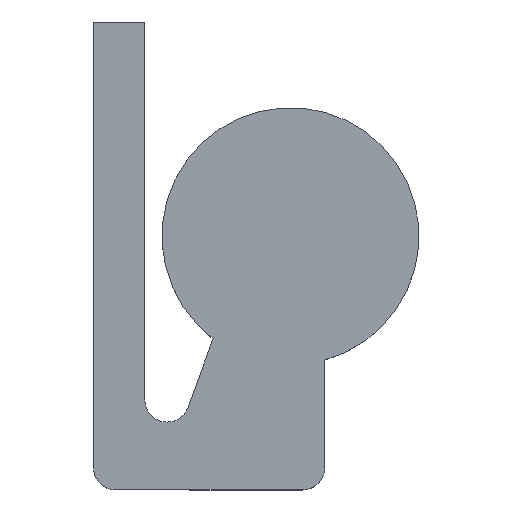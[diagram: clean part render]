
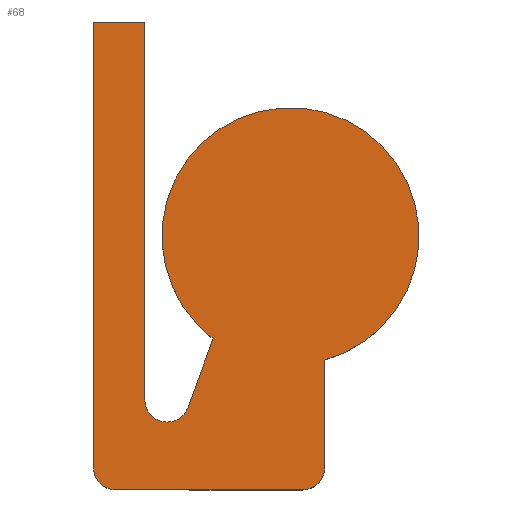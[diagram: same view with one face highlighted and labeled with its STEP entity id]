
A CAD part, top view. The second image highlights one B-rep face of the part: STEP entity #68.
In plain terms, the highlighted planar face has unit normal (0, 0, 1).
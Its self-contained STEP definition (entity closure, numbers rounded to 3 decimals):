
#68 = ADVANCED_FACE( '', ( #171 ), #172, .T. );
#171 = FACE_OUTER_BOUND( '', #323, .T. );
#172 = PLANE( '', #324 );
#323 = EDGE_LOOP( '', ( #471, #472, #473, #474, #475, #476, #477, #478, #479, #480, #481 ) );
#324 = AXIS2_PLACEMENT_3D( '', #482, #483, #484 );
#471 = ORIENTED_EDGE( '', *, *, #798, .F. );
#472 = ORIENTED_EDGE( '', *, *, #799, .T. );
#473 = ORIENTED_EDGE( '', *, *, #800, .F. );
#474 = ORIENTED_EDGE( '', *, *, #801, .F. );
#475 = ORIENTED_EDGE( '', *, *, #802, .F. );
#476 = ORIENTED_EDGE( '', *, *, #803, .F. );
#477 = ORIENTED_EDGE( '', *, *, #804, .F. );
#478 = ORIENTED_EDGE( '', *, *, #805, .F. );
#479 = ORIENTED_EDGE( '', *, *, #806, .F. );
#480 = ORIENTED_EDGE( '', *, *, #807, .F. );
#481 = ORIENTED_EDGE( '', *, *, #808, .F. );
#482 = CARTESIAN_POINT( '', ( -150., -150., 0. ) );
#483 = DIRECTION( '', ( 0., 0., 1. ) );
#484 = DIRECTION( '', ( 0., -1., 0. ) );
#798 = EDGE_CURVE( '', #923, #924, #925, .T. );
#799 = EDGE_CURVE( '', #923, #926, #927, .T. );
#800 = EDGE_CURVE( '', #928, #926, #929, .T. );
#801 = EDGE_CURVE( '', #930, #928, #931, .T. );
#802 = EDGE_CURVE( '', #932, #930, #933, .T. );
#803 = EDGE_CURVE( '', #934, #932, #935, .T. );
#804 = EDGE_CURVE( '', #936, #934, #937, .T. );
#805 = EDGE_CURVE( '', #938, #936, #939, .F. );
#806 = EDGE_CURVE( '', #940, #938, #941, .T. );
#807 = EDGE_CURVE( '', #942, #940, #943, .T. );
#808 = EDGE_CURVE( '', #924, #942, #944, .F. );
#923 = VERTEX_POINT( '', #1106 );
#924 = VERTEX_POINT( '', #1107 );
#925 = LINE( '', #1108, #1109 );
#926 = VERTEX_POINT( '', #1110 );
#927 = CIRCLE( '', #1111, 75. );
#928 = VERTEX_POINT( '', #1112 );
#929 = LINE( '', #1113, #1114 );
#930 = VERTEX_POINT( '', #1115 );
#931 = CIRCLE( '', #1116, 13. );
#932 = VERTEX_POINT( '', #1117 );
#933 = LINE( '', #1118, #1119 );
#934 = VERTEX_POINT( '', #1120 );
#935 = LINE( '', #1121, #1122 );
#936 = VERTEX_POINT( '', #1123 );
#937 = LINE( '', #1124, #1125 );
#938 = VERTEX_POINT( '', #1126 );
#939 = CIRCLE( '', #1127, 13. );
#940 = VERTEX_POINT( '', #1128 );
#941 = LINE( '', #1129, #1130 );
#942 = VERTEX_POINT( '', #1131 );
#943 = LINE( '', #1132, #1133 );
#944 = CIRCLE( '', #1134, 13. );
#1106 = CARTESIAN_POINT( '', ( 20., -72.284, 0. ) );
#1107 = CARTESIAN_POINT( '', ( 20., -135., 0. ) );
#1108 = CARTESIAN_POINT( '', ( 20., -150., 0. ) );
#1109 = VECTOR( '', #1337, 1000. );
#1110 = CARTESIAN_POINT( '', ( -45.196, -59.852, 0. ) );
#1111 = AXIS2_PLACEMENT_3D( '', #1338, #1339, #1340 );
#1112 = CARTESIAN_POINT( '', ( -59.784, -99.931, 0. ) );
#1113 = CARTESIAN_POINT( '', ( -86.429, -173.138, 0. ) );
#1114 = VECTOR( '', #1341, 1000. );
#1115 = CARTESIAN_POINT( '', ( -85., -95.485, 0. ) );
#1116 = AXIS2_PLACEMENT_3D( '', #1342, #1343, #1344 );
#1117 = CARTESIAN_POINT( '', ( -85., 125., 0. ) );
#1118 = CARTESIAN_POINT( '', ( -85., -150., 0. ) );
#1119 = VECTOR( '', #1345, 1000. );
#1120 = CARTESIAN_POINT( '', ( -115., 125., 0. ) );
#1121 = CARTESIAN_POINT( '', ( -150., 125., 0. ) );
#1122 = VECTOR( '', #1346, 1000. );
#1123 = CARTESIAN_POINT( '', ( -115., -135., 0. ) );
#1124 = CARTESIAN_POINT( '', ( -115., -150., 0. ) );
#1125 = VECTOR( '', #1347, 1000. );
#1126 = CARTESIAN_POINT( '', ( -102., -148., 0. ) );
#1127 = AXIS2_PLACEMENT_3D( '', #1348, #1349, #1350 );
#1128 = CARTESIAN_POINT( '', ( -58.714, -148., 0. ) );
#1129 = CARTESIAN_POINT( '', ( -150., -148., 0. ) );
#1130 = VECTOR( '', #1351, 1000. );
#1131 = CARTESIAN_POINT( '', ( 7., -148., 0. ) );
#1132 = CARTESIAN_POINT( '', ( -150., -148., 0. ) );
#1133 = VECTOR( '', #1352, 1000. );
#1134 = AXIS2_PLACEMENT_3D( '', #1353, #1354, #1355 );
#1337 = DIRECTION( '', ( 0., -1., 0. ) );
#1338 = CARTESIAN_POINT( '', ( 0., 0., 0. ) );
#1339 = DIRECTION( '', ( 0., 0., 1. ) );
#1340 = DIRECTION( '', ( -1., 0., 0. ) );
#1341 = DIRECTION( '', ( 0.342, 0.94, 0. ) );
#1342 = CARTESIAN_POINT( '', ( -72., -95.485, 0. ) );
#1343 = DIRECTION( '', ( 0., 0., 1. ) );
#1344 = DIRECTION( '', ( 1., 0., 0. ) );
#1345 = DIRECTION( '', ( 0., -1., 0. ) );
#1346 = DIRECTION( '', ( 1., 0., 0. ) );
#1347 = DIRECTION( '', ( 0., 1., 0. ) );
#1348 = CARTESIAN_POINT( '', ( -102., -135., 0. ) );
#1349 = DIRECTION( '', ( 0., 0., 1. ) );
#1350 = DIRECTION( '', ( 1., 0., 0. ) );
#1351 = DIRECTION( '', ( -1., 0., 0. ) );
#1352 = DIRECTION( '', ( -1., 0., 0. ) );
#1353 = CARTESIAN_POINT( '', ( 7., -135., 0. ) );
#1354 = DIRECTION( '', ( 0., 0., 1. ) );
#1355 = DIRECTION( '', ( 1., 0., 0. ) );
